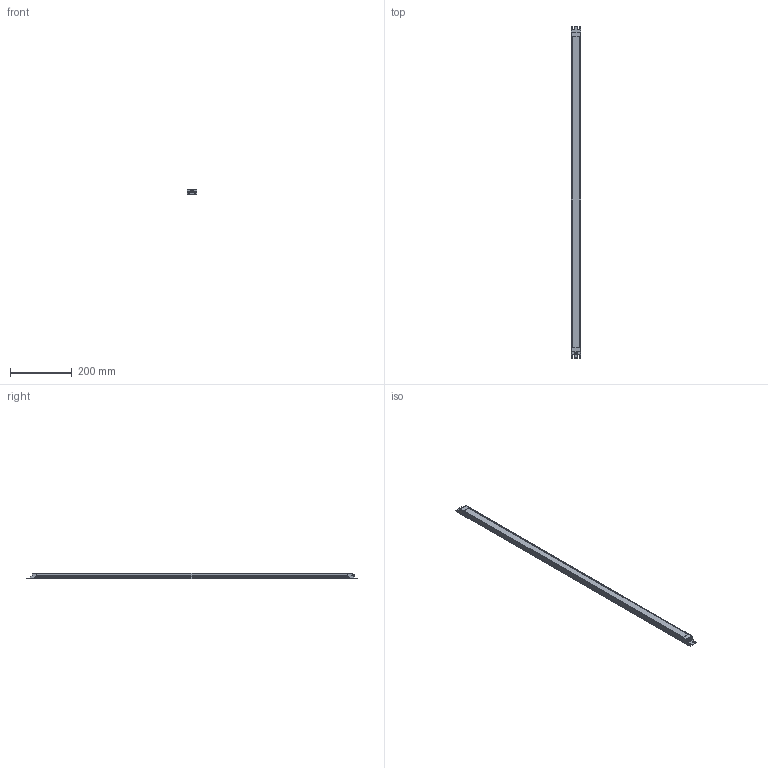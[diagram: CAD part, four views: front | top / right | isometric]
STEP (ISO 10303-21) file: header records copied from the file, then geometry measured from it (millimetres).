
FILE_DESCRIPTION(/* description */ (''),/* implementation_level */ '2;1');
FILE_NAME(/* name */ '1-000000-07828 - LED SL-SMART 1000 S-PMMAd-M8.stp',/* time_stamp */ '2025-04-03T13:30:49+02:00',/* author */ ('gzahn'),/* organization */ (''),/* preprocessor_version */ 'ST-DEVELOPER v20',/* originating_system */ 'Autodesk Inventor 2024',/* authorisation */ '');
FILE_SCHEMA (('AUTOMOTIVE_DESIGN { 1 0 10303 214 3 1 1 }'));
Length unit declared in the file: millimetre
Products named in the file (1): 1-000000-0XXXX LED SL 1000 S-PMMAd-M8
Bounding box: 30 x 1075 x 17.5 mm (x, y, z)
Volume: 445007.1 mm3; surface area: 140527.8 mm2
Topology: 1 solids, 1 shells, 553 faces, 1423 edges, 869 vertices
Faces by surface type: cylinder 220, plane 208, bspline 57, cone 38, sphere 24, torus 6
Full cylindrical faces by diameter (mm): 1 x4, 5.5 x4, 5.75 x1, 5.8 x1, 6.5 x2, 6.9 x1, 8 x1
Entity records: 18631 total; most frequent: CARTESIAN_POINT 4975, ORIENTED_EDGE 2798, DIRECTION 2652, EDGE_CURVE 1399, AXIS2_PLACEMENT_3D 986, VERTEX_POINT 869, LINE 680, VECTOR 680
